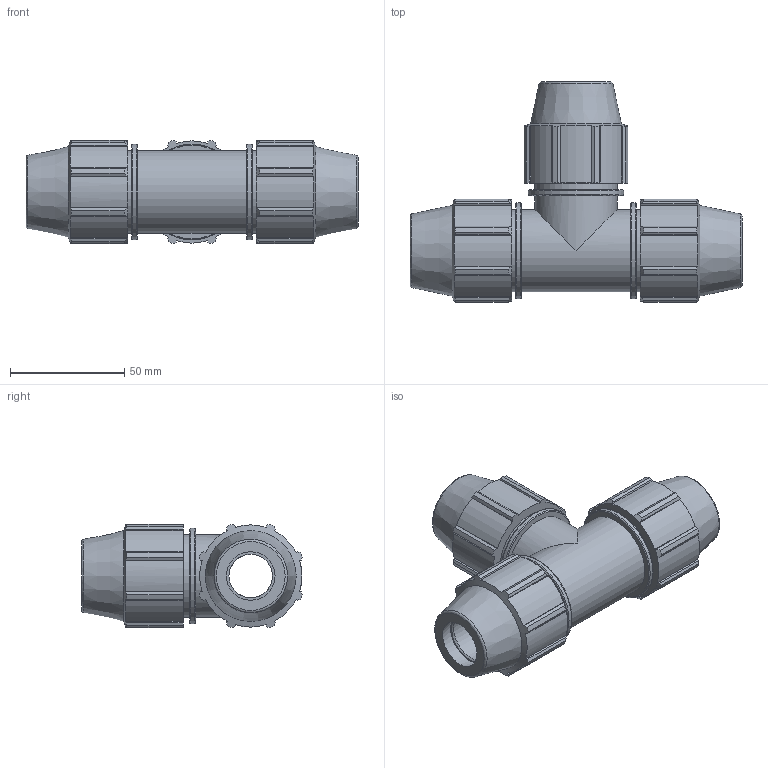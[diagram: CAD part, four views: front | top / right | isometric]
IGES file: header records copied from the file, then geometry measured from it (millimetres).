
Global section: file name: 0704M0050.ipt; native system: Autodesk Inventor 2019; preprocessor: unknown; author: KIM; date: 20210826.124535; units: inch
Bounding box: 145.03 x 96.5 x 45.17 mm (x, y, z)
Volume: 182142.7 mm3; surface area: 45769.4 mm2
Topology: 1 solids, 1 shells, 212 faces, 605 edges, 410 vertices
Faces by surface type: plane 114, cylinder 56, cone 22, revolution 20
Full cylindrical faces by diameter (mm): 36.005 x5, 41.765 x3
